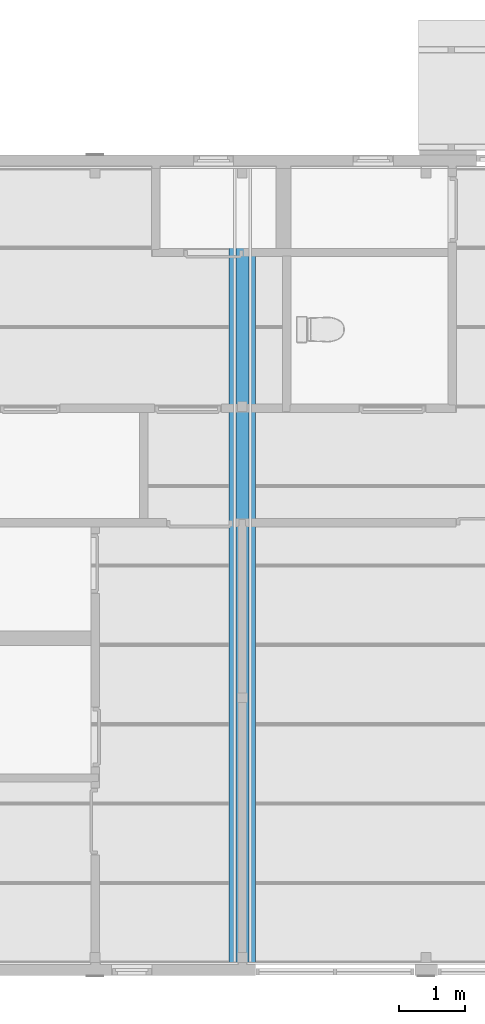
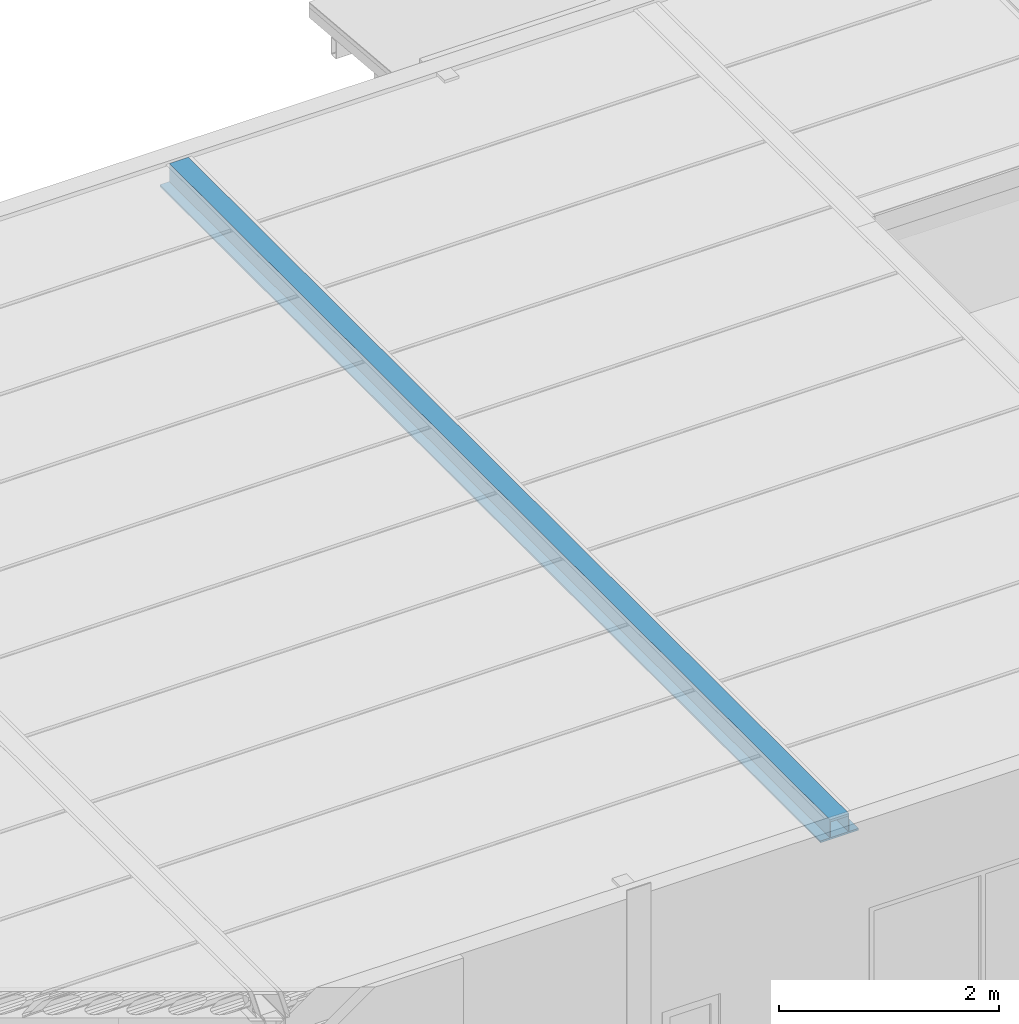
# One storey, part 17 of 45: 1 beam.
"""IFC2X3 building model written with IfcOpenShell, lengths in millimetres."""

from ifc_helpers import new_model, entity, si_unit, converted_unit, frame, origin, place, context, subcontext, project, spatial, faceted_brep, material, element, save


model = new_model("IFC2X3")

# Units and contexts
model_context = context("Model", 3, precision=1e-05, world=origin())
plan_context = context("Plan", 3, precision=1e-05, world=origin())
body_context = subcontext(model_context, "Body", "Model", "MODEL_VIEW")
ifc_project = project(units=[si_unit("LENGTHUNIT", "METRE", prefix="MILLI"), converted_unit("PLANEANGLEUNIT", "DEGREE", entity("IfcPlaneAngleMeasure", 0.0174532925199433), si_unit("PLANEANGLEUNIT", "RADIAN"), dimensions=[0, 0, 0, 0, 0, 0, 0]), si_unit("AREAUNIT", "SQUARE_METRE"), si_unit("VOLUMEUNIT", "CUBIC_METRE")], contexts=[model_context, plan_context])

# Building, storey
building_placement = place(None, origin())
building = spatial("IfcBuilding", under=ifc_project, at=building_placement, Name="HEKF Administrasjonbygg", CompositionType="ELEMENT")
storey_placement = place(building_placement, frame((0.0, 0.0, 6500.0), z_axis=(0.0, 0.0, 1.0), x_axis=(1.0, 0.0, 0.0)))
storey = spatial("IfcBuildingStorey", under=building, at=storey_placement, Name="Plan 1", CompositionType="ELEMENT", Elevation=6500.0)

# Beam
ifc_material = material(Name="HSQ")
beam_placement = place(storey_placement, frame((0.0, 0.0, -6500.0), z_axis=(0.0, 0.0, 1.0), x_axis=(1.0, 0.0, 0.0)))
element("IfcBeam", 1, at=beam_placement, inside=storey, material=ifc_material, context=body_context, shape_type="Brep", body=[
    faceted_brep([(22025.26840322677, -11999.99999999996, 9670.0), (22025.26840322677, -11999.99999999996, 9650.0), (22025.26840322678, 4.367109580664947e-11, 9650.0), (22025.26840322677, 4.367109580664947e-11, 9670.0), (22425.26840322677, -11999.99999999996, 9670.0), (22425.26840322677, -11999.99999999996, 9650.0), (22025.26840322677, -11999.99999999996, 9650.0), (22025.26840322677, -11999.99999999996, 9670.0), (22125.26840322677, -11999.99999999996, 9670.0), (22125.26840322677, -11999.99999999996, 9870.0), (22325.26840322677, -11999.99999999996, 9870.0), (22325.26840322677, -11999.99999999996, 9670.0), (22130.26840322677, -11999.99999999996, 9670.0), (22320.26840322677, -11999.99999999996, 9670.0), (22320.26840322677, -11999.99999999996, 9845.0), (22130.26840322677, -11999.99999999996, 9845.0), (22425.26840322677, 4.364039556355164e-11, 9670.0), (22425.26840322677, 4.364039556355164e-11, 9650.0), (22425.26840322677, -11999.99999999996, 9650.0), (22425.26840322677, -11999.99999999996, 9670.0), (22025.26840322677, 4.367109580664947e-11, 9670.0), (22025.26840322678, 4.367109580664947e-11, 9650.0), (22425.26840322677, 4.364039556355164e-11, 9650.0), (22425.26840322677, 4.364039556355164e-11, 9670.0), (22325.26840322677, 4.364962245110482e-11, 9670.0), (22325.26840322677, 4.364962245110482e-11, 9870.0), (22125.26840322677, 4.363737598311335e-11, 9870.0), (22125.26840322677, 4.363737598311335e-11, 9670.0), (22130.26840322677, 4.363768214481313e-11, 9670.0), (22130.26840322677, 4.363768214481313e-11, 9845.0), (22320.26840322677, 4.364931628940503e-11, 9845.0), (22320.26840322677, 4.364931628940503e-11, 9670.0), (22025.26840322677, -11999.99999999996, 9650.0), (22425.26840322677, -11999.99999999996, 9650.0), (22425.26840322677, 4.364039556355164e-11, 9650.0), (22025.26840322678, 4.367109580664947e-11, 9650.0), (22425.26840322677, -11999.99999999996, 9670.0), (22325.26840322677, -11999.99999999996, 9670.0), (22325.26840322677, 4.364962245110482e-11, 9670.0), (22425.26840322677, 4.364039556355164e-11, 9670.0), (22325.26840322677, -11999.99999999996, 9670.0), (22325.26840322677, -11999.99999999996, 9870.0), (22325.26840322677, 4.364962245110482e-11, 9870.0), (22325.26840322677, 4.364962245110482e-11, 9670.0), (22325.26840322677, -11999.99999999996, 9870.0), (22125.26840322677, -11999.99999999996, 9870.0), (22125.26840322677, 4.363737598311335e-11, 9870.0), (22325.26840322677, 4.364962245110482e-11, 9870.0), (22125.26840322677, -11999.99999999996, 9870.0), (22125.26840322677, -11999.99999999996, 9670.0), (22125.26840322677, 4.363737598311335e-11, 9670.0), (22125.26840322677, 4.363737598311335e-11, 9870.0), (22125.26840322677, -11999.99999999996, 9670.0), (22025.26840322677, -11999.99999999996, 9670.0), (22025.26840322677, 4.367109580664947e-11, 9670.0), (22125.26840322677, 4.363737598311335e-11, 9670.0), (22130.26840322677, -11999.99999999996, 9670.0), (22130.26840322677, -11999.99999999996, 9845.0), (22130.26840322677, 4.363768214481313e-11, 9845.0), (22130.26840322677, 4.363768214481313e-11, 9670.0), (22130.26840322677, -11999.99999999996, 9845.0), (22320.26840322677, -11999.99999999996, 9845.0), (22320.26840322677, 4.364931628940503e-11, 9845.0), (22130.26840322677, 4.363768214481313e-11, 9845.0), (22320.26840322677, -11999.99999999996, 9845.0), (22320.26840322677, -11999.99999999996, 9670.0), (22320.26840322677, 4.364931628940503e-11, 9670.0), (22320.26840322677, 4.364931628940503e-11, 9845.0), (22320.26840322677, -11999.99999999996, 9670.0), (22130.26840322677, -11999.99999999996, 9670.0), (22130.26840322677, 4.363768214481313e-11, 9670.0), (22320.26840322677, 4.364931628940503e-11, 9670.0)], [[[0, 1, 2, 3]], [[4, 5, 6, 7, 8, 9, 10, 11], [12, 13, 14, 15]], [[16, 17, 18, 19]], [[20, 21, 22, 23, 24, 25, 26, 27], [28, 29, 30, 31]], [[32, 33, 34, 35]], [[36, 37, 38, 39]], [[40, 41, 42, 43]], [[44, 45, 46, 47]], [[48, 49, 50, 51]], [[52, 53, 54, 55]], [[56, 57, 58, 59]], [[60, 61, 62, 63]], [[64, 65, 66, 67]], [[68, 69, 70, 71]]], orient=[[False], [False, False], [False], [False, False], [False], [False], [False], [False], [False], [False], [False], [False], [False], [False]]),
])

save(model, "model.ifc")
